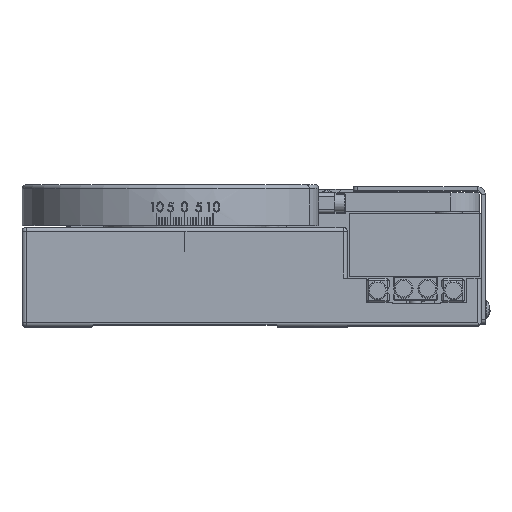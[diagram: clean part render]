
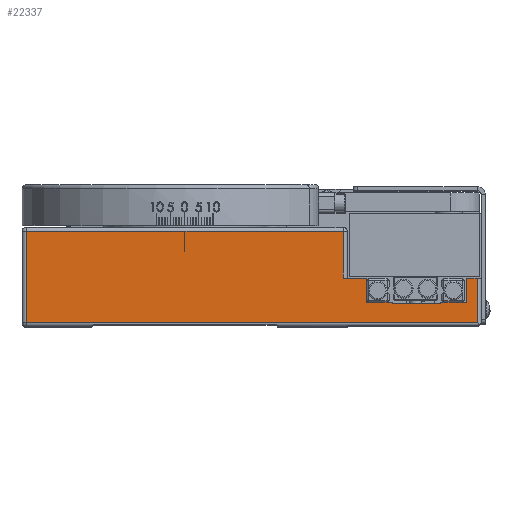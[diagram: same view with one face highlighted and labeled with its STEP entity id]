
A CAD part, top view. The second image highlights one B-rep face of the part: STEP entity #22337.
In plain terms, the highlighted planar face has unit normal (0, 0, 1).
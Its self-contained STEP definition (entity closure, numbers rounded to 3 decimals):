
#411 = EDGE_CURVE ( 'NONE', #4523, #81154, #1618, .T. ) ;
#759 = DIRECTION ( 'NONE',  ( 0., 1., 0. ) ) ;
#1618 = LINE ( 'NONE', #49449, #68855 ) ;
#2655 = LINE ( 'NONE', #16851, #4894 ) ;
#2807 = CARTESIAN_POINT ( 'NONE',  ( 39., -0.25, 40. ) ) ;
#4523 = VERTEX_POINT ( 'NONE', #39716 ) ;
#4678 = VERTEX_POINT ( 'NONE', #52455 ) ;
#4894 = VECTOR ( 'NONE', #42972, 1000. ) ;
#5892 = ORIENTED_EDGE ( 'NONE', *, *, #15409, .T. ) ;
#6157 = LINE ( 'NONE', #67708, #13899 ) ;
#6281 = VECTOR ( 'NONE', #7467, 1000. ) ;
#7198 = VERTEX_POINT ( 'NONE', #64053 ) ;
#7467 = DIRECTION ( 'NONE',  ( -1., 0., 0. ) ) ;
#7835 = CARTESIAN_POINT ( 'NONE',  ( 63.05, -6.55, 40. ) ) ;
#7868 = VERTEX_POINT ( 'NONE', #79777 ) ;
#9522 = LINE ( 'NONE', #30322, #51642 ) ;
#9602 = VECTOR ( 'NONE', #26568, 1000. ) ;
#11361 = VECTOR ( 'NONE', #69314, 1000. ) ;
#11436 = CARTESIAN_POINT ( 'NONE',  ( -39., 12.25, 40. ) ) ;
#11527 = EDGE_CURVE ( 'NONE', #81154, #75184, #64748, .T. ) ;
#12287 = VERTEX_POINT ( 'NONE', #2807 ) ;
#12300 = VERTEX_POINT ( 'NONE', #85602 ) ;
#12376 = CARTESIAN_POINT ( 'NONE',  ( -40., 11.25, 40. ) ) ;
#13182 = LINE ( 'NONE', #11436, #73557 ) ;
#13899 = VECTOR ( 'NONE', #34065, 1000. ) ;
#14291 = ORIENTED_EDGE ( 'NONE', *, *, #33442, .T. ) ;
#14303 = ORIENTED_EDGE ( 'NONE', *, *, #50261, .T. ) ;
#14704 = CARTESIAN_POINT ( 'NONE',  ( 63.05, -6.25, 40. ) ) ;
#14767 = VERTEX_POINT ( 'NONE', #67091 ) ;
#14864 = CARTESIAN_POINT ( 'NONE',  ( 40., 12.25, 40. ) ) ;
#15378 = DIRECTION ( 'NONE',  ( 0., 1., 0. ) ) ;
#15409 = EDGE_CURVE ( 'NONE', #79296, #72145, #34473, .T. ) ;
#15763 = CARTESIAN_POINT ( 'NONE',  ( 63.05, -6.25, 40. ) ) ;
#16203 = LINE ( 'NONE', #15763, #11361 ) ;
#16851 = CARTESIAN_POINT ( 'NONE',  ( 44.8, -0.25, 40. ) ) ;
#17129 = CARTESIAN_POINT ( 'NONE',  ( 72., -0.25, 40. ) ) ;
#18710 = LINE ( 'NONE', #60719, #30951 ) ;
#18944 = EDGE_CURVE ( 'NONE', #14767, #70766, #80644, .T. ) ;
#19132 = CARTESIAN_POINT ( 'NONE',  ( 69.3, -6.25, 40. ) ) ;
#19991 = EDGE_CURVE ( 'NONE', #7198, #72145, #18710, .T. ) ;
#20022 = DIRECTION ( 'NONE',  ( 0., 1., 0. ) ) ;
#21218 = CARTESIAN_POINT ( 'NONE',  ( 73., -0.25, 40. ) ) ;
#22260 = ORIENTED_EDGE ( 'NONE', *, *, #75643, .T. ) ;
#22337 = ADVANCED_FACE ( 'NONE', ( #80860 ), #81297, .F. ) ;
#22391 = DIRECTION ( 'NONE',  ( -1., 0., 0. ) ) ;
#24211 = CARTESIAN_POINT ( 'NONE',  ( 51.05, -6.25, 40. ) ) ;
#24452 = ORIENTED_EDGE ( 'NONE', *, *, #72783, .T. ) ;
#25280 = ORIENTED_EDGE ( 'NONE', *, *, #61722, .T. ) ;
#25473 = LINE ( 'NONE', #52470, #52789 ) ;
#26130 = LINE ( 'NONE', #46498, #56460 ) ;
#26385 = DIRECTION ( 'NONE',  ( 0., 0., -1. ) ) ;
#26568 = DIRECTION ( 'NONE',  ( -1., 0., 0. ) ) ;
#27011 = ORIENTED_EDGE ( 'NONE', *, *, #61878, .T. ) ;
#28264 = DIRECTION ( 'NONE',  ( -1., 0., 0. ) ) ;
#28991 = ORIENTED_EDGE ( 'NONE', *, *, #11527, .T. ) ;
#29144 = VERTEX_POINT ( 'NONE', #7835 ) ;
#30322 = CARTESIAN_POINT ( 'NONE',  ( 63.05, -6.55, 40. ) ) ;
#30464 = ORIENTED_EDGE ( 'NONE', *, *, #55791, .T. ) ;
#30951 = VECTOR ( 'NONE', #20022, 1000. ) ;
#31406 = LINE ( 'NONE', #12376, #53230 ) ;
#31470 = VERTEX_POINT ( 'NONE', #72462 ) ;
#32802 = VERTEX_POINT ( 'NONE', #56362 ) ;
#33442 = EDGE_CURVE ( 'NONE', #4678, #14767, #6157, .T. ) ;
#33889 = ORIENTED_EDGE ( 'NONE', *, *, #18944, .T. ) ;
#34065 = DIRECTION ( 'NONE',  ( 0., -1., 0. ) ) ;
#34473 = LINE ( 'NONE', #61483, #76127 ) ;
#34528 = CARTESIAN_POINT ( 'NONE',  ( 39., 11.25, 40. ) ) ;
#34951 = EDGE_CURVE ( 'NONE', #31470, #7868, #26130, .T. ) ;
#39590 = DIRECTION ( 'NONE',  ( 0., 1., 0. ) ) ;
#39716 = CARTESIAN_POINT ( 'NONE',  ( 51.05, -6.55, 40. ) ) ;
#40095 = VERTEX_POINT ( 'NONE', #74608 ) ;
#42269 = EDGE_CURVE ( 'NONE', #7868, #7198, #25473, .T. ) ;
#42972 = DIRECTION ( 'NONE',  ( 0., 1., 0. ) ) ;
#44929 = EDGE_CURVE ( 'NONE', #29144, #4523, #9522, .T. ) ;
#45978 = VECTOR ( 'NONE', #15378, 1000. ) ;
#46110 = DIRECTION ( 'NONE',  ( -1., 0., 0. ) ) ;
#46498 = CARTESIAN_POINT ( 'NONE',  ( -0.1, 11.25, 40. ) ) ;
#49449 = CARTESIAN_POINT ( 'NONE',  ( 51.05, -6.25, 40. ) ) ;
#50261 = EDGE_CURVE ( 'NONE', #82840, #4678, #67726, .T. ) ;
#51642 = VECTOR ( 'NONE', #22391, 1000. ) ;
#52455 = CARTESIAN_POINT ( 'NONE',  ( 69.3, -0.25, 40. ) ) ;
#52470 = CARTESIAN_POINT ( 'NONE',  ( -0.1, 6.25, 40. ) ) ;
#52789 = VECTOR ( 'NONE', #79492, 1000. ) ;
#53155 = VECTOR ( 'NONE', #39590, 1000. ) ;
#53230 = VECTOR ( 'NONE', #87190, 1000. ) ;
#53293 = CARTESIAN_POINT ( 'NONE',  ( 72., -0.25, 40. ) ) ;
#54446 = CARTESIAN_POINT ( 'NONE',  ( 73., -0.25, 40. ) ) ;
#55791 = EDGE_CURVE ( 'NONE', #12300, #40095, #13182, .T. ) ;
#56362 = CARTESIAN_POINT ( 'NONE',  ( 72., -11.25, 40. ) ) ;
#56460 = VECTOR ( 'NONE', #73498, 1000. ) ;
#57389 = CARTESIAN_POINT ( 'NONE',  ( 39., 12.25, 40. ) ) ;
#59393 = CARTESIAN_POINT ( 'NONE',  ( 44.8, -6.25, 40. ) ) ;
#59631 = ORIENTED_EDGE ( 'NONE', *, *, #44929, .T. ) ;
#60325 = CARTESIAN_POINT ( 'NONE',  ( 40., -11.25, 40. ) ) ;
#60432 = ORIENTED_EDGE ( 'NONE', *, *, #73855, .T. ) ;
#60719 = CARTESIAN_POINT ( 'NONE',  ( 0.1, 11.25, 40. ) ) ;
#60918 = DIRECTION ( 'NONE',  ( -1., 0., 0. ) ) ;
#61439 = ORIENTED_EDGE ( 'NONE', *, *, #19991, .F. ) ;
#61483 = CARTESIAN_POINT ( 'NONE',  ( -40., 11.25, 40. ) ) ;
#61722 = EDGE_CURVE ( 'NONE', #75184, #63671, #2655, .T. ) ;
#61878 = EDGE_CURVE ( 'NONE', #63671, #12287, #61906, .T. ) ;
#61906 = LINE ( 'NONE', #21218, #6281 ) ;
#63671 = VERTEX_POINT ( 'NONE', #68534 ) ;
#64053 = CARTESIAN_POINT ( 'NONE',  ( 0.1, 6.25, 40. ) ) ;
#64553 = VECTOR ( 'NONE', #86456, 1000. ) ;
#64748 = LINE ( 'NONE', #72274, #64553 ) ;
#65564 = EDGE_CURVE ( 'NONE', #70766, #29144, #16203, .T. ) ;
#66840 = CARTESIAN_POINT ( 'NONE',  ( 0.1, 11.25, 40. ) ) ;
#67091 = CARTESIAN_POINT ( 'NONE',  ( 69.3, -6.25, 40. ) ) ;
#67216 = ORIENTED_EDGE ( 'NONE', *, *, #74769, .T. ) ;
#67708 = CARTESIAN_POINT ( 'NONE',  ( 69.3, -0.25, 40. ) ) ;
#67726 = LINE ( 'NONE', #54446, #9602 ) ;
#68534 = CARTESIAN_POINT ( 'NONE',  ( 44.8, -0.25, 40. ) ) ;
#68855 = VECTOR ( 'NONE', #759, 1000. ) ;
#69314 = DIRECTION ( 'NONE',  ( 0., -1., 0. ) ) ;
#69439 = ORIENTED_EDGE ( 'NONE', *, *, #34951, .F. ) ;
#70000 = ORIENTED_EDGE ( 'NONE', *, *, #42269, .F. ) ;
#70766 = VERTEX_POINT ( 'NONE', #14704 ) ;
#72145 = VERTEX_POINT ( 'NONE', #66840 ) ;
#72274 = CARTESIAN_POINT ( 'NONE',  ( 69.3, -6.25, 40. ) ) ;
#72462 = CARTESIAN_POINT ( 'NONE',  ( -0.1, 11.25, 40. ) ) ;
#72752 = LINE ( 'NONE', #60325, #78402 ) ;
#72783 = EDGE_CURVE ( 'NONE', #40095, #32802, #72752, .T. ) ;
#73185 = DIRECTION ( 'NONE',  ( 1., 0., 0. ) ) ;
#73439 = VECTOR ( 'NONE', #46110, 1000. ) ;
#73498 = DIRECTION ( 'NONE',  ( 0., -1., 0. ) ) ;
#73557 = VECTOR ( 'NONE', #87121, 1000. ) ;
#73855 = EDGE_CURVE ( 'NONE', #12287, #79296, #83996, .T. ) ;
#74608 = CARTESIAN_POINT ( 'NONE',  ( -39., -11.25, 40. ) ) ;
#74769 = EDGE_CURVE ( 'NONE', #32802, #82840, #80325, .T. ) ;
#75184 = VERTEX_POINT ( 'NONE', #59393 ) ;
#75643 = EDGE_CURVE ( 'NONE', #31470, #12300, #31406, .T. ) ;
#76127 = VECTOR ( 'NONE', #28264, 1000. ) ;
#76660 = EDGE_LOOP ( 'NONE', ( #5892, #61439, #70000, #69439, #22260, #30464, #24452, #67216, #14303, #14291, #33889, #77820, #59631, #84985, #28991, #25280, #27011, #60432 ) ) ;
#77820 = ORIENTED_EDGE ( 'NONE', *, *, #65564, .T. ) ;
#78402 = VECTOR ( 'NONE', #73185, 1000. ) ;
#79296 = VERTEX_POINT ( 'NONE', #34528 ) ;
#79492 = DIRECTION ( 'NONE',  ( 1., 0., 0. ) ) ;
#79777 = CARTESIAN_POINT ( 'NONE',  ( -0.1, 6.25, 40. ) ) ;
#80325 = LINE ( 'NONE', #53293, #53155 ) ;
#80644 = LINE ( 'NONE', #19132, #73439 ) ;
#80860 = FACE_OUTER_BOUND ( 'NONE', #76660, .T. ) ;
#81154 = VERTEX_POINT ( 'NONE', #24211 ) ;
#81297 = PLANE ( 'NONE',  #84950 ) ;
#82840 = VERTEX_POINT ( 'NONE', #17129 ) ;
#83996 = LINE ( 'NONE', #57389, #45978 ) ;
#84950 = AXIS2_PLACEMENT_3D ( 'NONE', #14864, #26385, #60918 ) ;
#84985 = ORIENTED_EDGE ( 'NONE', *, *, #411, .T. ) ;
#85602 = CARTESIAN_POINT ( 'NONE',  ( -39., 11.25, 40. ) ) ;
#86456 = DIRECTION ( 'NONE',  ( -1., 0., 0. ) ) ;
#87121 = DIRECTION ( 'NONE',  ( 0., -1., 0. ) ) ;
#87190 = DIRECTION ( 'NONE',  ( -1., 0., 0. ) ) ;
